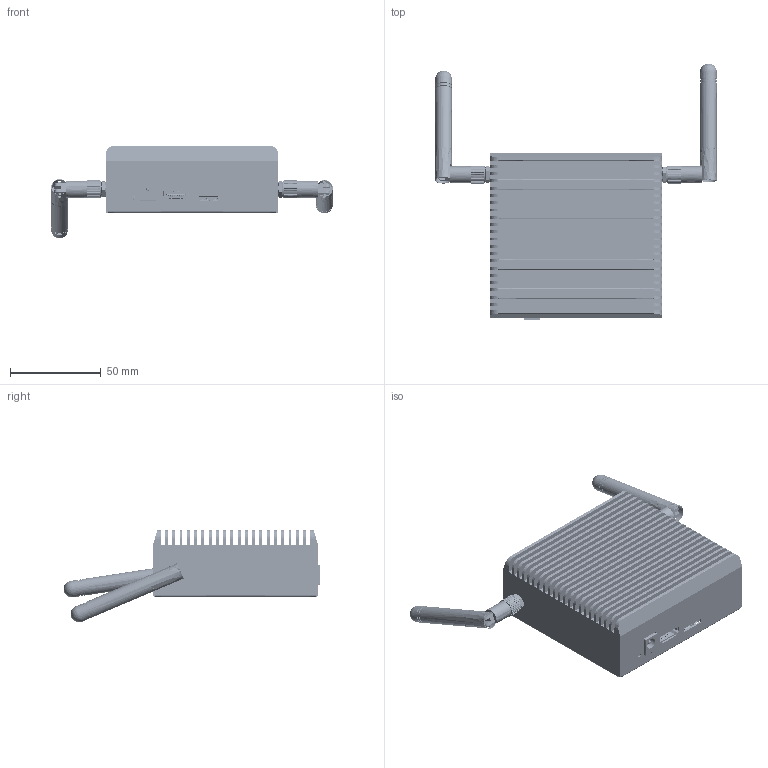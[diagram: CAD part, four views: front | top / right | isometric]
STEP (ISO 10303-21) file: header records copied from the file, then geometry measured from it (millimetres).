
FILE_DESCRIPTION((''),'2;1');
FILE_NAME('UP_GWS01_CHASSIS_ASM','2017-09-26T',('EmmaHsu'),(''),'PRO/ENGINEER BY PARAMETRIC TECHNOLOGY CORPORATION, 2016010','PRO/ENGINEER BY PARAMETRIC TECHNOLOGY CORPORATION, 2016010','');
FILE_SCHEMA(('AUTOMOTIVE_DESIGN { 1 0 10303 214 1 1 1 1 }'));
Products named in the file (38): 5022504191; DC-POWER-JACK-TK18001-TOUKE; 1655910130; ANTENNA____; SCREW_M4NUT; __JACK; ANTENNA; ANTENNA___ASM; 1RS; GWF-4M02_BRACKET; 1654808309; CPU; BT_MODULE_BRACKET; 1654801010; 1654401932; PRODUCT_42444; A885; PRODUCT_357181; 530470210; BT_MODULE; 1RS-Y58; RJ45-P03-1AK9-S-TECH; GWF-7M02; __3; __4; __2; __1; 1601000990_ASM; GWF-7M02_BRACKET; PCB-85-56; GWF-4M02; 5022502191; FU49; PIN-HEADER-SINGLE-2-02P; PIN-HEADER-DUAL-254-040; PRODUCT_173821; UP_______ASM; UP_GWS01_CHASSIS_ASM
Assembly tree (44 placements, depth 4):
  UP_GWS01_CHASSIS_ASM
    UP_______ASM
      5022504191
      DC-POWER-JACK-TK18001-TOUKE
      1655910130
      ANTENNA___ASM  x2
        ANTENNA____
        SCREW_M4NUT
        __JACK
        ANTENNA
      1RS  x5
      GWF-4M02_BRACKET
      1654808309  x2
      CPU
      BT_MODULE_BRACKET
      1654801010
      1654401932
      PRODUCT_42444
      A885
      PRODUCT_357181
      530470210  x2
      BT_MODULE
      1RS-Y58
      RJ45-P03-1AK9-S-TECH
      GWF-7M02
      1601000990_ASM
        __3
        __4
        __2
        __1
      GWF-7M02_BRACKET
      PCB-85-56
      GWF-4M02
      5022502191
      FU49
      PIN-HEADER-SINGLE-2-02P
      PIN-HEADER-DUAL-254-040
      PRODUCT_173821
Bounding box: 155 x 141.38 x 50.97 mm (x, y, z)
Surface area: 134758.1 mm2 (no closed solid volume)
Topology: 0 solids, 0 shells, 13037 faces, 76227 edges, 76193 vertices
Faces by surface type: bspline 13001, sphere 19, torus 17
Entity records: 974284 total; most frequent: CARTESIAN_POINT 270712, DIRECTION 110902, TRIMMED_CURVE 105399, VECTOR 100854, LINE 100854, DEFINITIONAL_REPRESENTATION 73914, PCURVE 73914, COMPOSITE_CURVE_SEGMENT 73914
